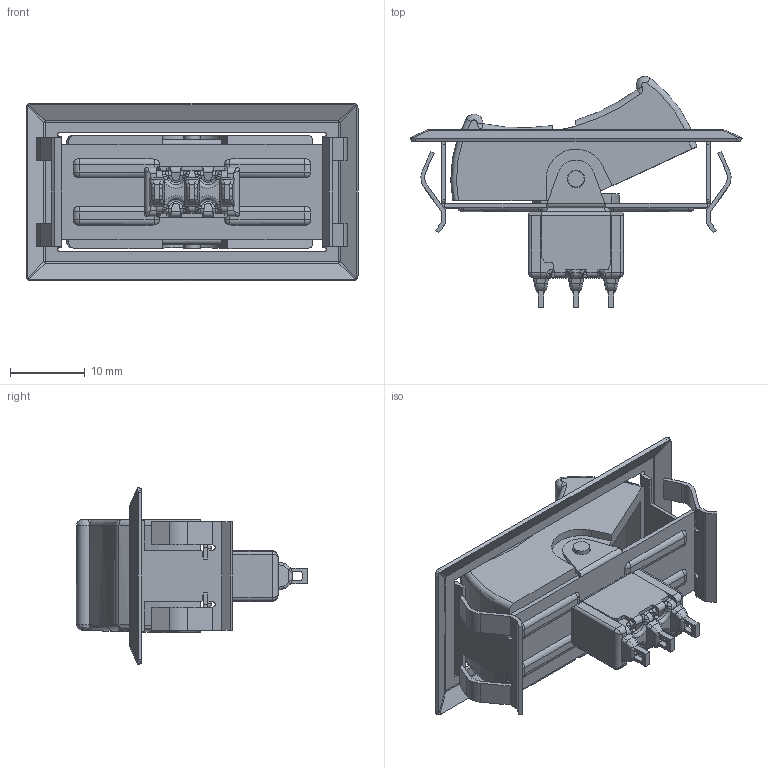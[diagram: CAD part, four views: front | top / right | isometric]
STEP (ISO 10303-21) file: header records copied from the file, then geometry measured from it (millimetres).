
FILE_DESCRIPTION( ( 'STEP AP214' ), '1' );
FILE_NAME( 'p:/temp/worker_350/temp/exporttempdir_2132_520_Iq8Zf/format_0/7105J19ZQE22.stp', '2020-01-15T17:17:11', ( '' ), ( '' ), ' ', 'PARTsolutions', ' ' );
FILE_SCHEMA( ( 'AUTOMOTIVE_DESIGN { 1 0 10303 214 1 1 1 1 }' ) );
Length unit declared in the file: inch
Products named in the file (2): 7105J19ZQE22; 1
Assembly tree (1 placements, depth 2):
  7105J19ZQE22
    1
Bounding box: 44.45 x 30.95 x 23.8 mm (x, y, z)
Volume: 3388.2 mm3; surface area: 7127.5 mm2
Topology: 1 solids, 1 shells, 1044 faces, 2757 edges, 1719 vertices
Faces by surface type: plane 633, cylinder 249, bspline 100, sphere 41, torus 16, cone 5
Full cylindrical faces by diameter (mm): 2.184 x2, 2.362 x2, 2.603 x1, 3.505 x1, 3.988 x1, 4.242 x1, 5.232 x1
Entity records: 36980 total; most frequent: CARTESIAN_POINT 11950, ORIENTED_EDGE 5454, DIRECTION 4810, EDGE_CURVE 2727, LINE 1928, VECTOR 1928, VERTEX_POINT 1709, AXIS2_PLACEMENT_3D 1441
